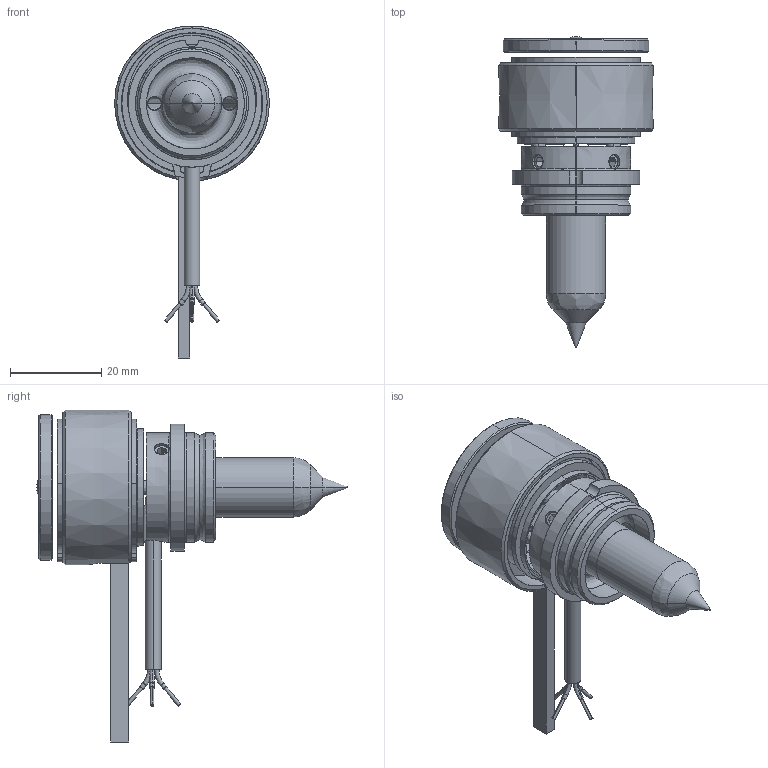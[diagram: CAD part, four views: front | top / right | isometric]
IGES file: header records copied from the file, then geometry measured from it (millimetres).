
Start section: SolidWorks IGES file using analytic representation for surfaces
Global section: file name: C:\Documents and Settings\ws-20\Desktop\TEM\UGGS2510-S-1 [Øf-0.25].IGS; native system: SolidWorks 2012; preprocessor: SolidWorks 2012; author: ws-20; date: 120516.092731; units: millimetre
Bounding box: 34 x 68.3 x 72.9 mm (x, y, z)
Surface area: 15381.2 mm2 (no closed solid volume)
Topology: 0 solids, 0 shells, 207 faces, 2963 edges, 2957 vertices
Faces by surface type: revolution 131, bspline 76
